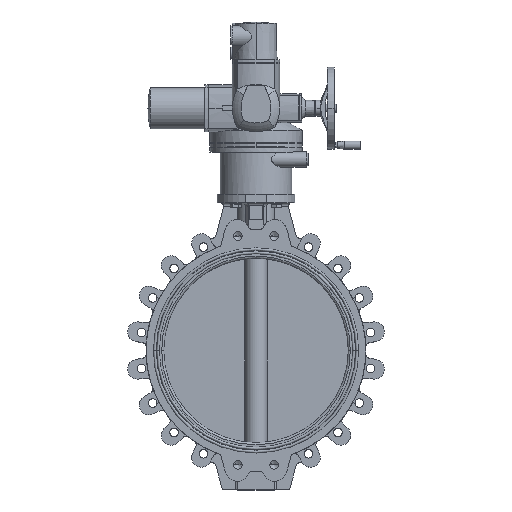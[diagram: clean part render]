
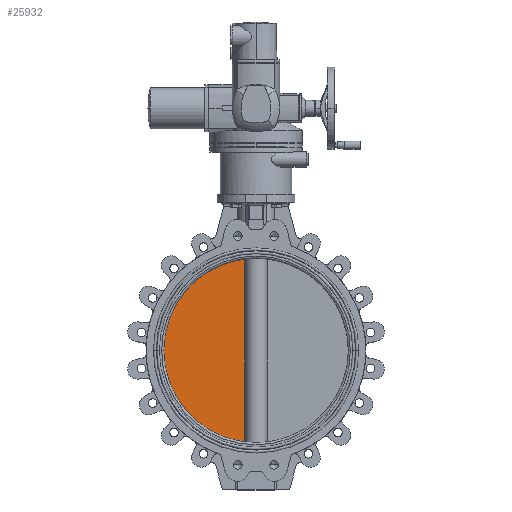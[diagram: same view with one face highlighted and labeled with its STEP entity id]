
A CAD part, top view. The second image highlights one B-rep face of the part: STEP entity #25932.
In plain terms, the highlighted planar face has unit normal (0, 0, 1).
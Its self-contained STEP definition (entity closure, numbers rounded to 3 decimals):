
#582 = CARTESIAN_POINT ( 'NONE',  ( -26.833, 223.394, 8. ) ) ;
#1700 = EDGE_LOOP ( 'NONE', ( #7446, #10198, #29354 ) ) ;
#3575 = CARTESIAN_POINT ( 'NONE',  ( -227., 418.501, 8. ) ) ;
#3626 = CARTESIAN_POINT ( 'NONE',  ( -26.833, 418.501, 8. ) ) ;
#4642 = AXIS2_PLACEMENT_3D ( 'NONE', #3575, #24347, #32847 ) ;
#5611 = DIRECTION ( 'NONE',  ( 0., 0., -1. ) ) ;
#7446 = ORIENTED_EDGE ( 'NONE', *, *, #25074, .F. ) ;
#9395 = DIRECTION ( 'NONE',  ( 0., -1., 0. ) ) ;
#9611 = DIRECTION ( 'NONE',  ( -1., 0., 0. ) ) ;
#10198 = ORIENTED_EDGE ( 'NONE', *, *, #21087, .F. ) ;
#12144 = CARTESIAN_POINT ( 'NONE',  ( 0., 0., 8. ) ) ;
#12680 = LINE ( 'NONE', #3626, #18965 ) ;
#18134 = DIRECTION ( 'NONE',  ( -1., 0., 0. ) ) ;
#18965 = VECTOR ( 'NONE', #9395, 1000. ) ;
#20712 = PLANE ( 'NONE',  #4642 ) ;
#21087 = EDGE_CURVE ( 'NONE', #28394, #28756, #12680, .T. ) ;
#22007 = CIRCLE ( 'NONE', #28175, 225. ) ;
#24347 = DIRECTION ( 'NONE',  ( 0., 0., -1. ) ) ;
#25074 = EDGE_CURVE ( 'NONE', #28756, #27178, #36568, .T. ) ;
#25932 = ADVANCED_FACE ( 'NONE', ( #35552 ), #20712, .F. ) ;
#27178 = VERTEX_POINT ( 'NONE', #35470 ) ;
#28175 = AXIS2_PLACEMENT_3D ( 'NONE', #29291, #5611, #18134 ) ;
#28394 = VERTEX_POINT ( 'NONE', #582 ) ;
#28756 = VERTEX_POINT ( 'NONE', #31810 ) ;
#29291 = CARTESIAN_POINT ( 'NONE',  ( 0., 0., 8. ) ) ;
#29339 = EDGE_CURVE ( 'NONE', #27178, #28394, #22007, .T. ) ;
#29354 = ORIENTED_EDGE ( 'NONE', *, *, #29339, .F. ) ;
#29642 = DIRECTION ( 'NONE',  ( 0., 0., -1. ) ) ;
#31810 = CARTESIAN_POINT ( 'NONE',  ( -26.833, -223.394, 8. ) ) ;
#32847 = DIRECTION ( 'NONE',  ( -1., 0., 0. ) ) ;
#35470 = CARTESIAN_POINT ( 'NONE',  ( -225., 0., 8. ) ) ;
#35552 = FACE_OUTER_BOUND ( 'NONE', #1700, .T. ) ;
#36568 = CIRCLE ( 'NONE', #37763, 225. ) ;
#37763 = AXIS2_PLACEMENT_3D ( 'NONE', #12144, #29642, #9611 ) ;
